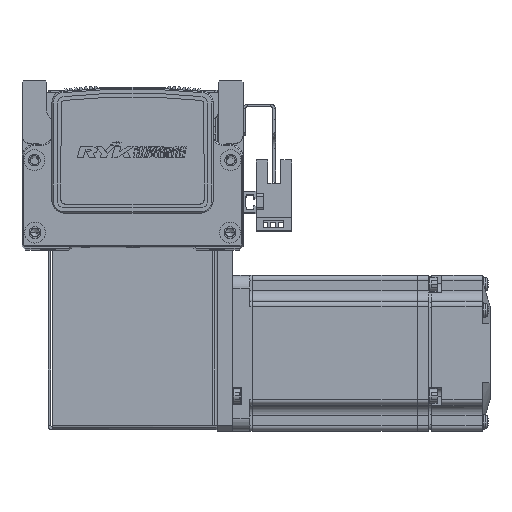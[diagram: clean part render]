
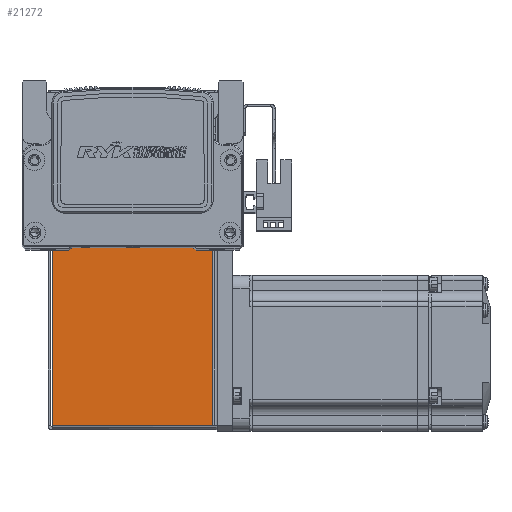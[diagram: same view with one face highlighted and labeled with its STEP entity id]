
A CAD part, top view. The second image highlights one B-rep face of the part: STEP entity #21272.
In plain terms, the highlighted planar face has unit normal (0, 0, 1).
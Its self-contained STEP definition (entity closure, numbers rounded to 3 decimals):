
#19029 = DIRECTION ( 'NONE',  ( 0., 0., -1. ) ) ;
#19047 = PLANE ( 'NONE',  #47264 ) ;
#19048 = CARTESIAN_POINT ( 'NONE',  ( 0., 0., 35. ) ) ;
#19059 = DIRECTION ( 'NONE',  ( -1., 0., 0. ) ) ;
#20506 = FACE_OUTER_BOUND ( 'NONE', #36763, .T. ) ;
#21272 = ADVANCED_FACE ( 'NONE', ( #20506 ), #19047, .F. ) ;
#24613 = CARTESIAN_POINT ( 'NONE',  ( -30.793, 72.5, 35. ) ) ;
#24700 = CARTESIAN_POINT ( 'NONE',  ( 30.763, 0.737, 35. ) ) ;
#24701 = CARTESIAN_POINT ( 'NONE',  ( -30.793, 0.737, 35. ) ) ;
#24729 = CARTESIAN_POINT ( 'NONE',  ( 30.763, 72.5, 35. ) ) ;
#36763 = EDGE_LOOP ( 'NONE', ( #41822, #41794, #41907, #41759 ) ) ;
#37838 = CARTESIAN_POINT ( 'NONE',  ( -30.793, 0., 35. ) ) ;
#37847 = CARTESIAN_POINT ( 'NONE',  ( 30.763, 0.737, 35. ) ) ;
#37851 = DIRECTION ( 'NONE',  ( 0., 1., 0. ) ) ;
#37859 = DIRECTION ( 'NONE',  ( -1., 0., 0. ) ) ;
#37872 = DIRECTION ( 'NONE',  ( 0., 1., 0. ) ) ;
#37873 = CARTESIAN_POINT ( 'NONE',  ( -32.5, 0.737, 35. ) ) ;
#37949 = CARTESIAN_POINT ( 'NONE',  ( 0., 72.5, 35. ) ) ;
#37999 = DIRECTION ( 'NONE',  ( -1., 0., 0. ) ) ;
#41023 = VECTOR ( 'NONE', #37851, 1000. ) ;
#41028 = LINE ( 'NONE', #37838, #41050 ) ;
#41033 = LINE ( 'NONE', #37873, #41067 ) ;
#41038 = LINE ( 'NONE', #37847, #41023 ) ;
#41050 = VECTOR ( 'NONE', #37872, 1000. ) ;
#41067 = VECTOR ( 'NONE', #37859, 1000. ) ;
#41102 = VECTOR ( 'NONE', #37999, 1000. ) ;
#41114 = LINE ( 'NONE', #37949, #41102 ) ;
#41759 = ORIENTED_EDGE ( 'NONE', *, *, #61074, .F. ) ;
#41794 = ORIENTED_EDGE ( 'NONE', *, *, #61113, .T. ) ;
#41822 = ORIENTED_EDGE ( 'NONE', *, *, #61068, .T. ) ;
#41907 = ORIENTED_EDGE ( 'NONE', *, *, #61078, .F. ) ;
#42787 = VERTEX_POINT ( 'NONE', #24613 ) ;
#42830 = VERTEX_POINT ( 'NONE', #24700 ) ;
#42894 = VERTEX_POINT ( 'NONE', #24701 ) ;
#42996 = VERTEX_POINT ( 'NONE', #24729 ) ;
#47264 = AXIS2_PLACEMENT_3D ( 'NONE', #19048, #19029, #19059 ) ;
#61068 = EDGE_CURVE ( 'NONE', #42830, #42996, #41038, .T. ) ;
#61074 = EDGE_CURVE ( 'NONE', #42830, #42894, #41033, .T. ) ;
#61078 = EDGE_CURVE ( 'NONE', #42894, #42787, #41028, .T. ) ;
#61113 = EDGE_CURVE ( 'NONE', #42996, #42787, #41114, .T. ) ;
